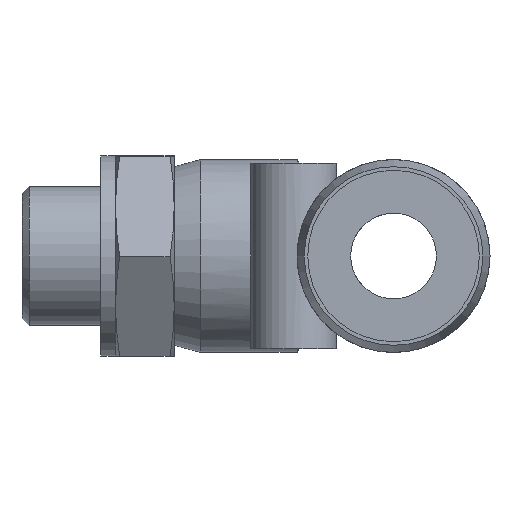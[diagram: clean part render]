
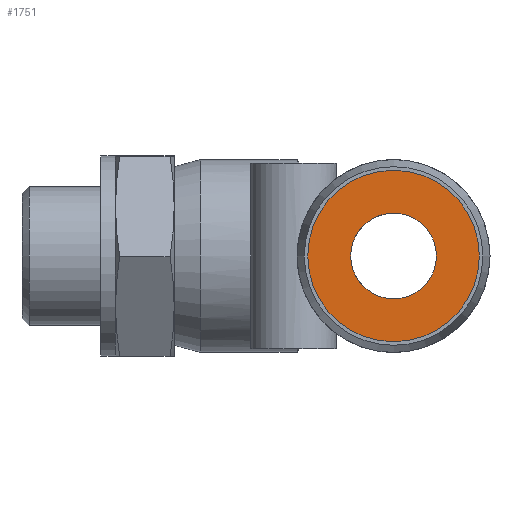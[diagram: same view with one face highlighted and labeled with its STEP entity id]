
A CAD part, left-side view. The second image highlights one B-rep face of the part: STEP entity #1751.
In plain terms, the highlighted planar face has unit normal (-1, 0, 0).
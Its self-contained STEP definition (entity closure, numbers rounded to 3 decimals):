
#794=CARTESIAN_POINT('',(-19.5,-3.0,0.));
#795=VERTEX_POINT('',#794);
#796=CARTESIAN_POINT('',(-19.5,0.0,0.0));
#797=DIRECTION('',(1.0,0.0,0.0));
#798=DIRECTION('',(0.0,1.0,0.0));
#799=AXIS2_PLACEMENT_3D('',#796,#797,#798);
#800=CIRCLE('',#799,3.0);
#801=EDGE_CURVE('',#795,#795,#800,.T.);
#1725=CARTESIAN_POINT('',(-19.5,-6.,0.0));
#1726=VERTEX_POINT('',#1725);
#1727=CARTESIAN_POINT('',(-19.5,0.,0.0));
#1728=DIRECTION('',(-1.0,0.0,0.0));
#1729=DIRECTION('',(0.0,-1.0,0.0));
#1730=AXIS2_PLACEMENT_3D('',#1727,#1728,#1729);
#1731=CIRCLE('',#1730,6.);
#1732=EDGE_CURVE('',#1726,#1726,#1731,.T.);
#1740=CARTESIAN_POINT('',(-19.5,-3.,0.0));
#1741=DIRECTION('',(-1.0,0.0,0.0));
#1742=DIRECTION('',(0.0,0.0,-1.0));
#1743=AXIS2_PLACEMENT_3D('',#1740,#1741,#1742);
#1744=PLANE('',#1743);
#1745=ORIENTED_EDGE('',*,*,#1732,.T.);
#1746=EDGE_LOOP('',(#1745));
#1747=FACE_OUTER_BOUND('',#1746,.T.);
#1748=ORIENTED_EDGE('',*,*,#801,.T.);
#1749=EDGE_LOOP('',(#1748));
#1750=FACE_BOUND('',#1749,.T.);
#1751=ADVANCED_FACE('',(#1747,#1750),#1744,.T.);
